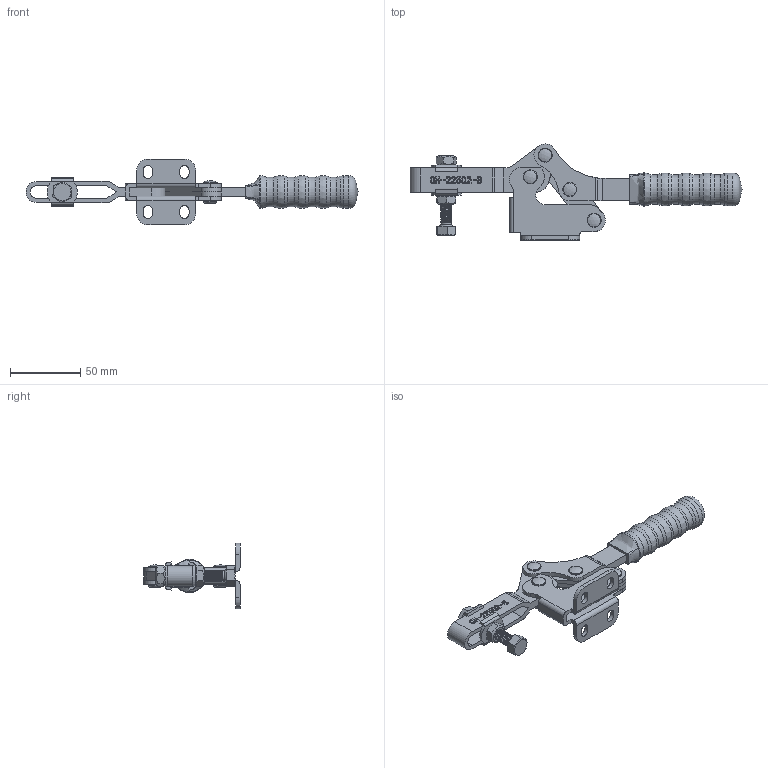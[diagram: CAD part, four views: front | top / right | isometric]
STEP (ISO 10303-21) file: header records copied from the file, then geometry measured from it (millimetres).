
FILE_DESCRIPTION(/* description */ ('STEP AP203'),/* implementation_level */ '2;1');
FILE_NAME(/* name */ 'E:\STRONA\Horizontal toggle clamp\CH-22502-B\CH-22502-B_ZAMKNIETY.stp',/* time_stamp */ '2019-01-15T16:49:12+01:00',/* author */ ('Admin'),/* organization */ ('·L?¤¤?'),/* preprocessor_version */ 'ST-DEVELOPER v17.2',/* originating_system */ 'Autodesk Inventor 2019',/* authorisation */ '');
FILE_SCHEMA (('AUTOMOTIVE_DESIGN { 1 0 10303 214 3 1 1 }'));
Length unit declared in the file: millimetre
Products named in the file (10): CH-22502-B_ZAMKNIETY; FW516___; CH-FC-085012___; 22502-B-04___; 22502-B-06___; 22502-B-05___; 22502-B-03___; 22502-B-01___; 22502-B-02___; M8___
Assembly tree (15 placements, depth 2):
  CH-22502-B_ZAMKNIETY
    FW516___  x2
    22502-B-05___  x4
    CH-FC-085012___
    22502-B-04___  x2
    22502-B-06___
    M8___  x2
    22502-B-03___
    22502-B-01___
    22502-B-02___
Bounding box: 236.75 x 68.5 x 47 mm (x, y, z)
Volume: 75984.3 mm3; surface area: 50425 mm2
Topology: 15 solids, 15 shells, 729 faces, 2016 edges, 1354 vertices
Faces by surface type: plane 309, bspline 220, cylinder 145, torus 26, cone 21, sphere 8
Full cylindrical faces by diameter (mm): 3.2 x1, 4.4 x1, 5 x4, 6.3 x4, 6.4 x14, 6.5 x8, 8 x37, 8.1 x2, 9.803 x4, 10 x4, 23.323 x1
Entity records: 54523 total; most frequent: CARTESIAN_POINT 39004, ORIENTED_EDGE 3578, DIRECTION 2421, EDGE_CURVE 1789, VERTEX_POINT 1197, LINE 965, VECTOR 965, AXIS2_PLACEMENT_3D 728
